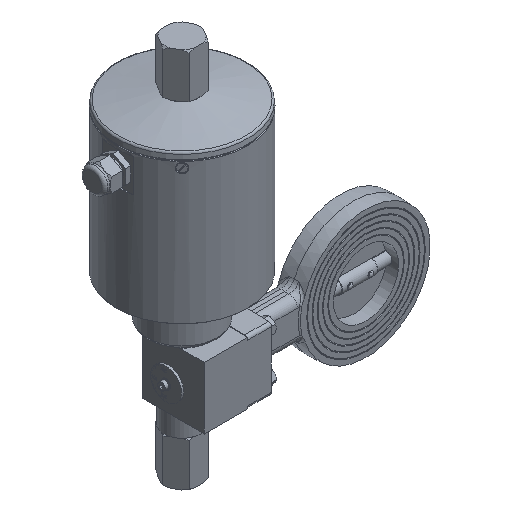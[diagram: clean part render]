
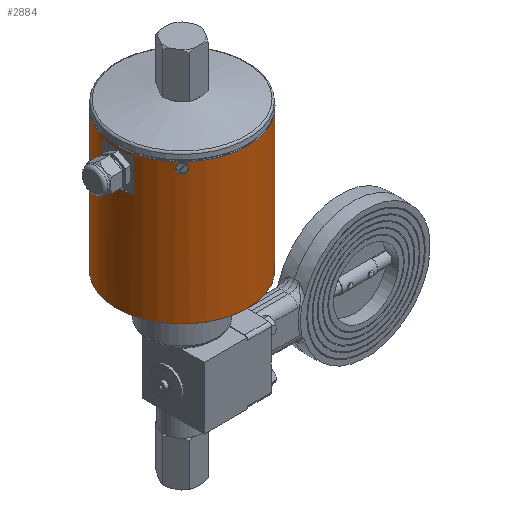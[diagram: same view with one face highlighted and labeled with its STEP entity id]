
A CAD part, isometric view. The second image highlights one B-rep face of the part: STEP entity #2884.
In plain terms, the highlighted cylindrical face has radius 63.5 mm (diameter 127 mm), a full revolution.
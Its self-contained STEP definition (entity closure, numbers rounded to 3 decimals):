
#2714=CARTESIAN_POINT('',(-63.5,42.5,75.5));
#2715=VERTEX_POINT('',#2714);
#2716=CARTESIAN_POINT('',(0.,42.5,75.5));
#2717=DIRECTION('',(0.0,0.0,-1.0));
#2718=DIRECTION('',(1.0,0.0,0.0));
#2719=AXIS2_PLACEMENT_3D('',#2716,#2717,#2718);
#2720=CIRCLE('',#2719,63.5);
#2721=EDGE_CURVE('',#2715,#2715,#2720,.T.);
#2749=CARTESIAN_POINT('',(0.,42.5,75.));
#2750=DIRECTION('',(0.,0.,1.0));
#2751=DIRECTION('',(1.0,0.0,0.0));
#2752=AXIS2_PLACEMENT_3D('',#2749,#2750,#2751);
#2753=CYLINDRICAL_SURFACE('',#2752,63.5);
#2754=ORIENTED_EDGE('',*,*,#2721,.F.);
#2755=EDGE_LOOP('',(#2754));
#2756=FACE_OUTER_BOUND('',#2755,.T.);
#2757=CARTESIAN_POINT('',(-44.901,-2.401,201.25));
#2758=VERTEX_POINT('',#2757);
#2759=CARTESIAN_POINT('',(-44.901,-2.401,210.75));
#2760=VERTEX_POINT('',#2759);
#2761=CARTESIAN_POINT('',(-44.901,-2.401,201.25));
#2762=CARTESIAN_POINT('',(-45.27,-2.032,201.25));
#2763=CARTESIAN_POINT('',(-45.655,-1.638,201.347));
#2764=CARTESIAN_POINT('',(-46.01,-1.265,201.544));
#2765=CARTESIAN_POINT('',(-46.371,-0.885,201.745));
#2766=CARTESIAN_POINT('',(-46.702,-0.527,202.048));
#2767=CARTESIAN_POINT('',(-46.974,-0.229,202.411));
#2768=CARTESIAN_POINT('',(-47.116,-0.073,202.6));
#2769=CARTESIAN_POINT('',(-47.241,0.066,202.801));
#2770=CARTESIAN_POINT('',(-47.357,0.197,203.026));
#2771=CARTESIAN_POINT('',(-47.584,0.451,203.464));
#2772=CARTESIAN_POINT('',(-47.765,0.657,203.984));
#2773=CARTESIAN_POINT('',(-47.878,0.787,204.531));
#2774=CARTESIAN_POINT('',(-47.977,0.901,205.012));
#2775=CARTESIAN_POINT('',(-48.025,0.957,205.514));
#2776=CARTESIAN_POINT('',(-48.026,0.957,205.99));
#2777=CARTESIAN_POINT('',(-48.026,0.958,206.198));
#2778=CARTESIAN_POINT('',(-48.018,0.948,206.411));
#2779=CARTESIAN_POINT('',(-47.999,0.927,206.625));
#2780=CARTESIAN_POINT('',(-47.953,0.873,207.178));
#2781=CARTESIAN_POINT('',(-47.841,0.744,207.737));
#2782=CARTESIAN_POINT('',(-47.668,0.548,208.241));
#2783=CARTESIAN_POINT('',(-47.539,0.401,208.619));
#2784=CARTESIAN_POINT('',(-47.376,0.218,208.966));
#2785=CARTESIAN_POINT('',(-47.195,0.016,209.263));
#2786=CARTESIAN_POINT('',(-47.095,-0.095,209.427));
#2787=CARTESIAN_POINT('',(-46.985,-0.216,209.581));
#2788=CARTESIAN_POINT('',(-46.866,-0.347,209.726));
#2789=CARTESIAN_POINT('',(-46.579,-0.661,210.075));
#2790=CARTESIAN_POINT('',(-46.236,-1.029,210.355));
#2791=CARTESIAN_POINT('',(-45.868,-1.414,210.529));
#2792=CARTESIAN_POINT('',(-45.553,-1.742,210.678));
#2793=CARTESIAN_POINT('',(-45.222,-2.081,210.75));
#2794=CARTESIAN_POINT('',(-44.901,-2.401,210.75));
#2795=B_SPLINE_CURVE_WITH_KNOTS('',3,(#2761,#2762,#2763,#2764,#2765,#2766,#2767,#2768,#2769,#2770,#2771,#2772,#2773,#2774,#2775,#2776,#2777,#2778,#2779,#2780,#2781,#2782,#2783,#2784,#2785,#2786,#2787,#2788,#2789,#2790,#2791,#2792,#2793,#2794),.UNSPECIFIED.,.F.,.U.,(4,3,3,3,3,3,3,3,3,3,3,4),(0.704,0.86,1.019,1.102,1.264,1.406,1.468,1.629,1.749,1.816,1.975,2.111),.UNSPECIFIED.);
#2796=EDGE_CURVE('',#2758,#2760,#2795,.T.);
#2797=ORIENTED_EDGE('',*,*,#2796,.T.);
#2798=CARTESIAN_POINT('',(-44.901,-2.401,210.75));
#2799=CARTESIAN_POINT('',(-44.531,-2.772,210.75));
#2800=CARTESIAN_POINT('',(-44.135,-3.158,210.652));
#2801=CARTESIAN_POINT('',(-43.76,-3.514,210.453));
#2802=CARTESIAN_POINT('',(-43.379,-3.877,210.251));
#2803=CARTESIAN_POINT('',(-43.02,-4.209,209.945));
#2804=CARTESIAN_POINT('',(-42.72,-4.481,209.579));
#2805=CARTESIAN_POINT('',(-42.562,-4.625,209.386));
#2806=CARTESIAN_POINT('',(-42.422,-4.751,209.182));
#2807=CARTESIAN_POINT('',(-42.291,-4.868,208.952));
#2808=CARTESIAN_POINT('',(-42.04,-5.092,208.514));
#2809=CARTESIAN_POINT('',(-41.836,-5.27,207.996));
#2810=CARTESIAN_POINT('',(-41.709,-5.382,207.451));
#2811=CARTESIAN_POINT('',(-41.637,-5.444,207.145));
#2812=CARTESIAN_POINT('',(-41.589,-5.486,206.831));
#2813=CARTESIAN_POINT('',(-41.563,-5.508,206.521));
#2814=CARTESIAN_POINT('',(-41.546,-5.522,206.31));
#2815=CARTESIAN_POINT('',(-41.54,-5.528,206.104));
#2816=CARTESIAN_POINT('',(-41.543,-5.525,205.898));
#2817=CARTESIAN_POINT('',(-41.552,-5.518,205.358));
#2818=CARTESIAN_POINT('',(-41.632,-5.449,204.787));
#2819=CARTESIAN_POINT('',(-41.786,-5.314,204.253));
#2820=CARTESIAN_POINT('',(-41.939,-5.18,203.721));
#2821=CARTESIAN_POINT('',(-42.166,-4.981,203.226));
#2822=CARTESIAN_POINT('',(-42.431,-4.743,202.818));
#2823=CARTESIAN_POINT('',(-42.535,-4.649,202.657));
#2824=CARTESIAN_POINT('',(-42.646,-4.549,202.507));
#2825=CARTESIAN_POINT('',(-42.767,-4.439,202.365));
#2826=CARTESIAN_POINT('',(-43.07,-4.163,202.008));
#2827=CARTESIAN_POINT('',(-43.429,-3.829,201.713));
#2828=CARTESIAN_POINT('',(-43.809,-3.468,201.521));
#2829=CARTESIAN_POINT('',(-44.169,-3.124,201.339));
#2830=CARTESIAN_POINT('',(-44.547,-2.756,201.25));
#2831=CARTESIAN_POINT('',(-44.901,-2.401,201.25));
#2832=B_SPLINE_CURVE_WITH_KNOTS('',3,(#2798,#2799,#2800,#2801,#2802,#2803,#2804,#2805,#2806,#2807,#2808,#2809,#2810,#2811,#2812,#2813,#2814,#2815,#2816,#2817,#2818,#2819,#2820,#2821,#2822,#2823,#2824,#2825,#2826,#2827,#2828,#2829,#2830,#2831),.UNSPECIFIED.,.F.,.U.,(4,3,3,3,3,3,3,3,3,3,3,4),(2.111,2.268,2.428,2.512,2.673,2.763,2.824,2.985,3.146,3.209,3.367,3.518),.UNSPECIFIED.);
#2833=EDGE_CURVE('',#2760,#2758,#2832,.T.);
#2834=ORIENTED_EDGE('',*,*,#2833,.T.);
#2835=EDGE_LOOP('',(#2797,#2834));
#2836=FACE_BOUND('',#2835,.T.);
#2837=CARTESIAN_POINT('',(-61.703,57.5,209.));
#2838=VERTEX_POINT('',#2837);
#2839=CARTESIAN_POINT('',(-61.703,27.5,209.));
#2840=VERTEX_POINT('',#2839);
#2841=CARTESIAN_POINT('',(0.,42.5,209.));
#2842=DIRECTION('',(0.0,0.0,1.0));
#2843=DIRECTION('',(1.0,0.0,0.0));
#2844=AXIS2_PLACEMENT_3D('',#2841,#2842,#2843);
#2845=CIRCLE('',#2844,63.5);
#2846=EDGE_CURVE('',#2838,#2840,#2845,.T.);
#2847=ORIENTED_EDGE('',*,*,#2846,.T.);
#2848=CARTESIAN_POINT('',(-61.703,27.5,177.));
#2849=VERTEX_POINT('',#2848);
#2850=CARTESIAN_POINT('',(-61.703,27.5,209.));
#2851=DIRECTION('',(0.0,0.0,-1.0));
#2852=VECTOR('',#2851,32.0);
#2853=LINE('',#2850,#2852);
#2854=EDGE_CURVE('',#2840,#2849,#2853,.T.);
#2855=ORIENTED_EDGE('',*,*,#2854,.T.);
#2856=CARTESIAN_POINT('',(-61.703,57.5,177.));
#2857=VERTEX_POINT('',#2856);
#2858=CARTESIAN_POINT('',(0.,42.5,177.));
#2859=DIRECTION('',(0.0,0.0,-1.0));
#2860=DIRECTION('',(1.0,0.0,0.0));
#2861=AXIS2_PLACEMENT_3D('',#2858,#2859,#2860);
#2862=CIRCLE('',#2861,63.5);
#2863=EDGE_CURVE('',#2849,#2857,#2862,.T.);
#2864=ORIENTED_EDGE('',*,*,#2863,.T.);
#2865=CARTESIAN_POINT('',(-61.703,57.5,177.));
#2866=DIRECTION('',(0.0,0.0,1.0));
#2867=VECTOR('',#2866,32.0);
#2868=LINE('',#2865,#2867);
#2869=EDGE_CURVE('',#2857,#2838,#2868,.T.);
#2870=ORIENTED_EDGE('',*,*,#2869,.T.);
#2871=EDGE_LOOP('',(#2847,#2855,#2864,#2870));
#2872=FACE_BOUND('',#2871,.T.);
#2873=CARTESIAN_POINT('',(-63.5,42.5,211.5));
#2874=VERTEX_POINT('',#2873);
#2875=CARTESIAN_POINT('',(0.,42.5,211.5));
#2876=DIRECTION('',(0.0,0.0,1.0));
#2877=DIRECTION('',(1.0,0.0,0.0));
#2878=AXIS2_PLACEMENT_3D('',#2875,#2876,#2877);
#2879=CIRCLE('',#2878,63.5);
#2880=EDGE_CURVE('',#2874,#2874,#2879,.T.);
#2881=ORIENTED_EDGE('',*,*,#2880,.F.);
#2882=EDGE_LOOP('',(#2881));
#2883=FACE_BOUND('',#2882,.T.);
#2884=ADVANCED_FACE('',(#2756,#2836,#2872,#2883),#2753,.T.);
